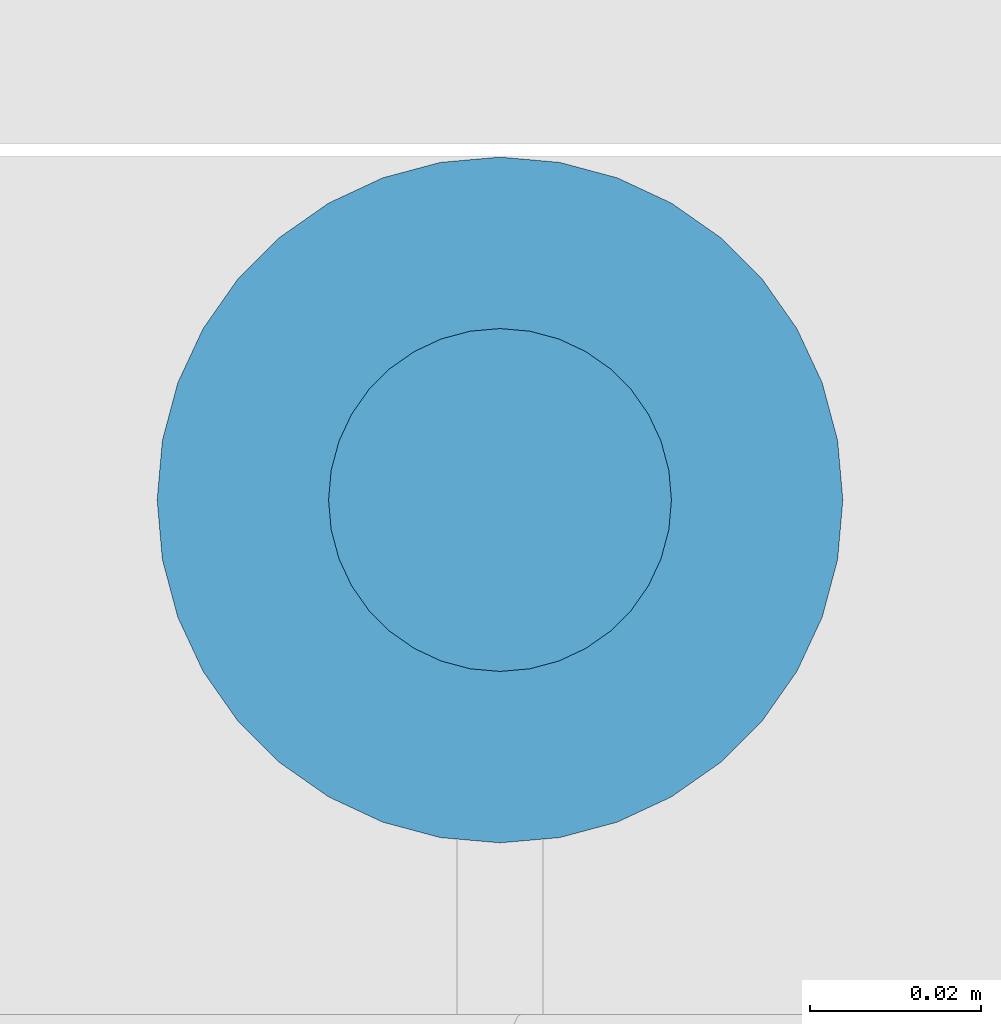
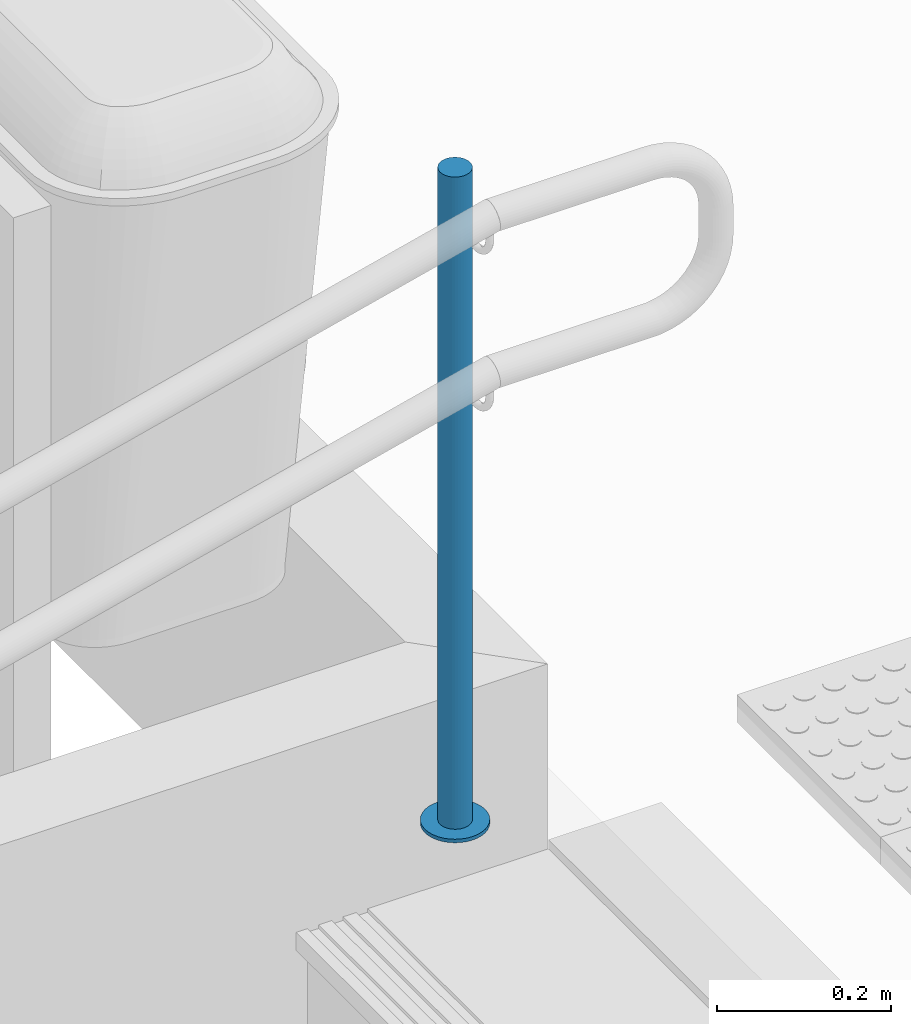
# One storey, part 91 of 237: 2 building element parts, 1 element without a shape of its own.
"""IFC2X3 building model written with IfcOpenShell, lengths in millimetres."""

from ifc_helpers import new_model, entity, si_unit, converted_unit, derived_unit, money_unit, direction, frame, origin_with_axes, place, context, subcontext, project, spatial, faceted_brep, material, type_object, element, aggregate, save


model = new_model("IFC2X3")

# Units and contexts
model_context = context("Model", 3, precision=0.01, world=origin_with_axes(), true_north=direction((0.0, 1.0)))
body_context = subcontext(model_context, "Body", "Model", "MODEL_VIEW")
ifc_project = project(units=[si_unit("LENGTHUNIT", "METRE", prefix="MILLI"), si_unit("AREAUNIT", "SQUARE_METRE"), si_unit("VOLUMEUNIT", "CUBIC_METRE"), converted_unit("PLANEANGLEUNIT", "DEGREE", entity("IfcPlaneAngleMeasure", 0.0174532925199), si_unit("PLANEANGLEUNIT", "RADIAN"), dimensions=[0, 0, 0, 0, 0, 0, 0]), money_unit("USD"), converted_unit("TIMEUNIT", "Year", entity("IfcTimeMeasure", 31556926.0), si_unit("TIMEUNIT", "SECOND"), dimensions=[0, 0, 1, 0, 0, 0, 0]), si_unit("MASSUNIT", "GRAM", prefix="KILO"), si_unit("THERMODYNAMICTEMPERATUREUNIT", "DEGREE_CELSIUS"), si_unit("LUMINOUSINTENSITYUNIT", "LUMEN"), si_unit("ENERGYUNIT", "JOULE", prefix="MEGA"), derived_unit("THERMALCONDUCTANCEUNIT", [(si_unit("POWERUNIT", "WATT"), 1), (si_unit("LENGTHUNIT", "METRE"), -1), (si_unit("THERMODYNAMICTEMPERATUREUNIT", "KELVIN"), -1)]), derived_unit("SPECIFICHEATCAPACITYUNIT", [(si_unit("ENERGYUNIT", "JOULE"), 1), (si_unit("MASSUNIT", "GRAM", prefix="KILO"), -1), (si_unit("THERMODYNAMICTEMPERATUREUNIT", "KELVIN"), -1)]), derived_unit("MASSDENSITYUNIT", [(si_unit("MASSUNIT", "GRAM", prefix="KILO"), 1), (si_unit("VOLUMEUNIT", "CUBIC_METRE"), -1)])], contexts=[model_context])

# Site, building, storey
site_placement = place(None, origin_with_axes())
site = spatial("IfcSite", under=ifc_project, at=site_placement, Name="Local", CompositionType="ELEMENT")
building_placement = place(site_placement, origin_with_axes())
building = spatial("IfcBuilding", under=site, at=building_placement, Name="Construção", CompositionType="ELEMENT")
storey_placement = place(building_placement, origin_with_axes())
storey = spatial("IfcBuildingStorey", under=building, at=storey_placement, Name="Pavimento Térreo", CompositionType="ELEMENT", Elevation=0.0)

# Railing, building element parts
railing_type = type_object("IfcRailingType", Name="Tipo de Guarda-Corpo", PredefinedType="NOTDEFINED")
railing_placement = place(storey_placement, frame((53321.2844677, 26654.8714921, -1624.61279054), z_axis=(0.0, 0.0, 1.0), x_axis=(1.0, 0.0, 0.0)))
railing = element("IfcRailing", 1, at=railing_placement, inside=storey, type_object=railing_type, Name="Guarda-Corpo - 001", PredefinedType="NOTDEFINED")
ifc_material_1 = material(Name="Aço - Inoxidável")
building_element_part_1_placement = place(railing_placement, origin_with_axes())
building_element_part_1 = element("IfcBuildingElementPart", 2, at=building_element_part_1_placement, material=ifc_material_1, Name="Aço - Inoxidável", context=body_context, shape_type="Brep", body=[
    faceted_brep([(-4402.49221625, -20.3038449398, 271.725564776), (-4405.96517981, -20.0, 271.725564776), (-4405.96517981, -20.0, 1186.72556478), (-4402.49221625, -20.3038449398, 1186.72556478), (-4409.43814336, -20.3038449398, 271.725564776), (-4399.12477694, -21.2061475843, 271.725564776), (-4395.96517981, -22.6794919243, 271.725564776), (-4393.10942761, -24.6791111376, 271.725564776), (-4390.64429094, -27.1442478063, 271.725564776), (-4388.64467173, -30.0, 271.725564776), (-4387.17132739, -33.1595971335, 271.725564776), (-4386.26902475, -36.5270364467, 271.725564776), (-4385.96517981, -40.0, 271.725564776), (-4386.26902475, -43.4729635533, 271.725564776), (-4387.17132739, -46.8404028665, 271.725564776), (-4388.64467173, -50.0, 271.725564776), (-4390.64429094, -52.8557521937, 271.725564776), (-4393.10942761, -55.3208888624, 271.725564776), (-4395.96517981, -57.3205080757, 271.725564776), (-4399.12477694, -58.7938524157, 271.725564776), (-4402.49221625, -59.6961550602, 271.725564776), (-4405.96517981, -60.0, 271.725564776), (-4409.43814336, -59.6961550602, 271.725564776), (-4412.80558267, -58.7938524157, 271.725564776), (-4415.96517981, -57.3205080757, 271.725564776), (-4418.820932, -55.3208888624, 271.725564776), (-4421.28606867, -52.8557521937, 271.725564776), (-4423.28568788, -50.0, 271.725564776), (-4424.75903222, -46.8404028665, 271.725564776), (-4425.66133487, -43.4729635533, 271.725564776), (-4425.96517981, -40.0, 271.725564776), (-4425.66133487, -36.5270364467, 271.725564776), (-4424.75903222, -33.1595971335, 271.725564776), (-4423.28568788, -30.0, 271.725564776), (-4421.28606867, -27.1442478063, 271.725564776), (-4418.820932, -24.6791111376, 271.725564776), (-4415.96517981, -22.6794919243, 271.725564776), (-4412.80558267, -21.2061475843, 271.725564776), (-4409.43814336, -20.3038449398, 1186.72556478), (-4386.26902475, -43.4729635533, 1186.72556478), (-4385.96517981, -40.0, 1186.72556478), (-4386.26902475, -36.5270364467, 1186.72556478), (-4387.17132739, -33.1595971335, 1186.72556478), (-4388.64467173, -30.0, 1186.72556478), (-4390.64429094, -27.1442478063, 1186.72556478), (-4393.10942761, -24.6791111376, 1186.72556478), (-4395.96517981, -22.6794919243, 1186.72556478), (-4399.12477694, -21.2061475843, 1186.72556478), (-4412.80558267, -21.2061475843, 1186.72556478), (-4415.96517981, -22.6794919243, 1186.72556478), (-4418.820932, -24.6791111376, 1186.72556478), (-4421.28606867, -27.1442478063, 1186.72556478), (-4423.28568788, -30.0, 1186.72556478), (-4424.75903222, -33.1595971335, 1186.72556478), (-4425.66133487, -36.5270364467, 1186.72556478), (-4425.96517981, -40.0, 1186.72556478), (-4425.66133487, -43.4729635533, 1186.72556478), (-4424.75903222, -46.8404028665, 1186.72556478), (-4423.28568788, -50.0, 1186.72556478), (-4421.28606867, -52.8557521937, 1186.72556478), (-4418.820932, -55.3208888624, 1186.72556478), (-4415.96517981, -57.3205080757, 1186.72556478), (-4412.80558267, -58.7938524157, 1186.72556478), (-4409.43814336, -59.6961550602, 1186.72556478), (-4405.96517981, -60.0, 1186.72556478), (-4402.49221625, -59.6961550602, 1186.72556478), (-4399.12477694, -58.7938524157, 1186.72556478), (-4395.96517981, -57.3205080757, 1186.72556478), (-4393.10942761, -55.3208888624, 1186.72556478), (-4390.64429094, -52.8557521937, 1186.72556478), (-4388.64467173, -50.0, 1186.72556478), (-4387.17132739, -46.8404028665, 1186.72556478)], [[[0, 1, 2, 3]], [[4, 1, 0, 5, 6, 7, 8, 9, 10, 11, 12, 13, 14, 15, 16, 17, 18, 19, 20, 21, 22, 23, 24, 25, 26, 27, 28, 29, 30, 31, 32, 33, 34, 35, 36, 37]], [[1, 4, 38, 2]], [[39, 40, 41, 42, 43, 44, 45, 46, 47, 3, 2, 38, 48, 49, 50, 51, 52, 53, 54, 55, 56, 57, 58, 59, 60, 61, 62, 63, 64, 65, 66, 67, 68, 69, 70, 71]], [[5, 0, 3, 47]], [[6, 5, 47, 46]], [[7, 6, 46, 45]], [[8, 7, 45, 44]], [[9, 8, 44, 43]], [[10, 9, 43, 42]], [[11, 10, 42, 41]], [[12, 11, 41, 40]], [[13, 12, 40, 39]], [[14, 13, 39, 71]], [[15, 14, 71, 70]], [[16, 15, 70, 69]], [[17, 16, 69, 68]], [[18, 17, 68, 67]], [[19, 18, 67, 66]], [[20, 19, 66, 65]], [[21, 20, 65, 64]], [[22, 21, 64, 63]], [[23, 22, 63, 62]], [[24, 23, 62, 61]], [[25, 24, 61, 60]], [[26, 25, 60, 59]], [[27, 26, 59, 58]], [[28, 27, 58, 57]], [[29, 28, 57, 56]], [[30, 29, 56, 55]], [[31, 30, 55, 54]], [[32, 31, 54, 53]], [[33, 32, 53, 52]], [[34, 33, 52, 51]], [[35, 34, 51, 50]], [[36, 35, 50, 49]], [[37, 36, 49, 48]], [[4, 37, 48, 38]]]),
])
ifc_material_2 = material(Name="Alumínio")
building_element_part_2_placement = place(railing_placement, origin_with_axes())
building_element_part_2 = element("IfcBuildingElementPart", 3, at=building_element_part_2_placement, material=ifc_material_2, Name="Alumínio", context=body_context, shape_type="Brep", body=[
    faceted_brep([(-4445.96517981, -40.0, 266.725564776), (-4445.35748993, -46.9459271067, 266.725564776), (-4445.35748993, -46.9459271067, 271.725564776), (-4445.96517981, -40.0, 271.725564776), (-4445.35748993, -33.0540728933, 266.725564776), (-4443.55288464, -26.319194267, 266.725564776), (-4440.60619596, -20.0, 266.725564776), (-4436.60695753, -14.2884956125, 266.725564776), (-4431.67668419, -9.35822227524, 266.725564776), (-4425.96517981, -5.35898384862, 266.725564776), (-4419.64598554, -2.41229516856, 266.725564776), (-4412.91110691, -0.607689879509, 266.725564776), (-4405.96517981, 0.0, 266.725564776), (-4399.0192527, -0.607689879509, 266.725564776), (-4392.28437407, -2.41229516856, 266.725564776), (-4385.96517981, -5.35898384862, 266.725564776), (-4380.25367542, -9.35822227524, 266.725564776), (-4375.32340208, -14.2884956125, 266.725564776), (-4371.32416365, -20.0, 266.725564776), (-4368.37747497, -26.319194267, 266.725564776), (-4366.57286969, -33.0540728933, 266.725564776), (-4365.96517981, -40.0, 266.725564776), (-4366.57286969, -46.9459271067, 266.725564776), (-4368.37747497, -53.680805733, 266.725564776), (-4371.32416365, -60.0, 266.725564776), (-4375.32340208, -65.7115043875, 266.725564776), (-4380.25367542, -70.6417777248, 266.725564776), (-4385.96517981, -74.6410161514, 266.725564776), (-4392.28437407, -77.5877048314, 266.725564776), (-4399.0192527, -79.3923101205, 266.725564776), (-4405.96517981, -80.0, 266.725564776), (-4412.91110691, -79.3923101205, 266.725564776), (-4419.64598554, -77.5877048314, 266.725564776), (-4425.96517981, -74.6410161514, 266.725564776), (-4431.67668419, -70.6417777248, 266.725564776), (-4436.60695753, -65.7115043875, 266.725564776), (-4440.60619596, -60.0, 266.725564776), (-4443.55288464, -53.680805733, 266.725564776), (-4443.55288464, -53.680805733, 271.725564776), (-4440.60619596, -60.0, 271.725564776), (-4436.60695753, -65.7115043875, 271.725564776), (-4431.67668419, -70.6417777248, 271.725564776), (-4425.96517981, -74.6410161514, 271.725564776), (-4419.64598554, -77.5877048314, 271.725564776), (-4412.91110691, -79.3923101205, 271.725564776), (-4405.96517981, -80.0, 271.725564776), (-4399.0192527, -79.3923101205, 271.725564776), (-4392.28437407, -77.5877048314, 271.725564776), (-4385.96517981, -74.6410161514, 271.725564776), (-4380.25367542, -70.6417777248, 271.725564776), (-4375.32340208, -65.7115043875, 271.725564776), (-4371.32416365, -60.0, 271.725564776), (-4368.37747497, -53.680805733, 271.725564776), (-4366.57286969, -46.9459271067, 271.725564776), (-4365.96517981, -40.0, 271.725564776), (-4366.57286969, -33.0540728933, 271.725564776), (-4368.37747497, -26.319194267, 271.725564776), (-4371.32416365, -20.0, 271.725564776), (-4375.32340208, -14.2884956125, 271.725564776), (-4380.25367542, -9.35822227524, 271.725564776), (-4385.96517981, -5.35898384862, 271.725564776), (-4392.28437407, -2.41229516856, 271.725564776), (-4399.0192527, -0.607689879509, 271.725564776), (-4405.96517981, 0.0, 271.725564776), (-4412.91110691, -0.607689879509, 271.725564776), (-4419.64598554, -2.41229516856, 271.725564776), (-4425.96517981, -5.35898384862, 271.725564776), (-4431.67668419, -9.35822227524, 271.725564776), (-4436.60695753, -14.2884956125, 271.725564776), (-4440.60619596, -20.0, 271.725564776), (-4443.55288464, -26.319194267, 271.725564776), (-4445.35748993, -33.0540728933, 271.725564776)], [[[0, 1, 2, 3]], [[0, 4, 5, 6, 7, 8, 9, 10, 11, 12, 13, 14, 15, 16, 17, 18, 19, 20, 21, 22, 23, 24, 25, 26, 27, 28, 29, 30, 31, 32, 33, 34, 35, 36, 37, 1]], [[1, 37, 38, 2]], [[3, 2, 38, 39, 40, 41, 42, 43, 44, 45, 46, 47, 48, 49, 50, 51, 52, 53, 54, 55, 56, 57, 58, 59, 60, 61, 62, 63, 64, 65, 66, 67, 68, 69, 70, 71]], [[4, 0, 3, 71]], [[5, 4, 71, 70]], [[6, 5, 70, 69]], [[7, 6, 69, 68]], [[8, 7, 68, 67]], [[9, 8, 67, 66]], [[10, 9, 66, 65]], [[11, 10, 65, 64]], [[12, 11, 64, 63]], [[13, 12, 63, 62]], [[14, 13, 62, 61]], [[15, 14, 61, 60]], [[16, 15, 60, 59]], [[17, 16, 59, 58]], [[18, 17, 58, 57]], [[19, 18, 57, 56]], [[20, 19, 56, 55]], [[21, 20, 55, 54]], [[22, 21, 54, 53]], [[23, 22, 53, 52]], [[24, 23, 52, 51]], [[25, 24, 51, 50]], [[26, 25, 50, 49]], [[27, 26, 49, 48]], [[28, 27, 48, 47]], [[29, 28, 47, 46]], [[30, 29, 46, 45]], [[31, 30, 45, 44]], [[32, 31, 44, 43]], [[33, 32, 43, 42]], [[34, 33, 42, 41]], [[35, 34, 41, 40]], [[36, 35, 40, 39]], [[37, 36, 39, 38]]]),
])
aggregate(railing, [building_element_part_1, building_element_part_2])

save(model, "model.ifc")
